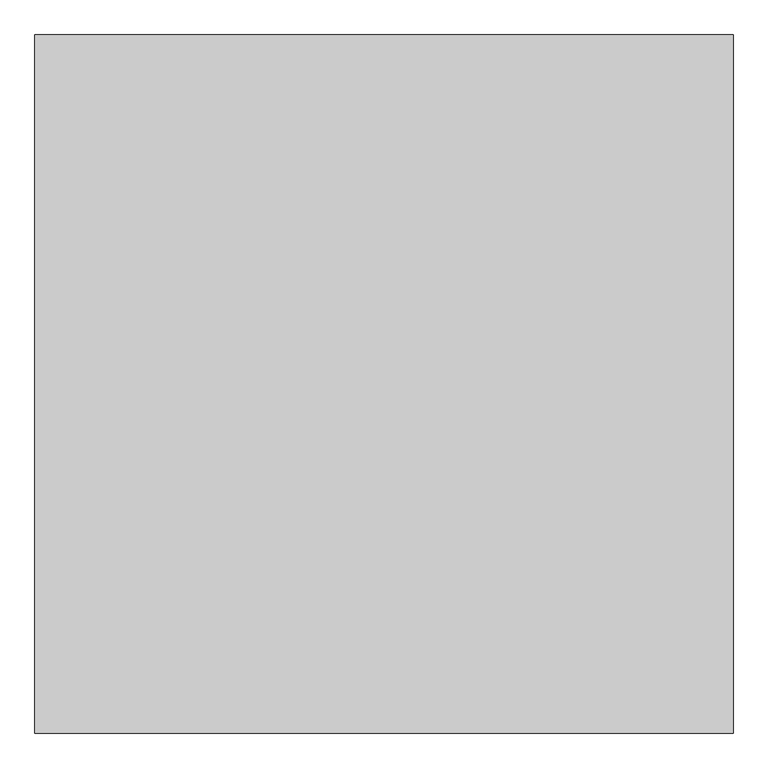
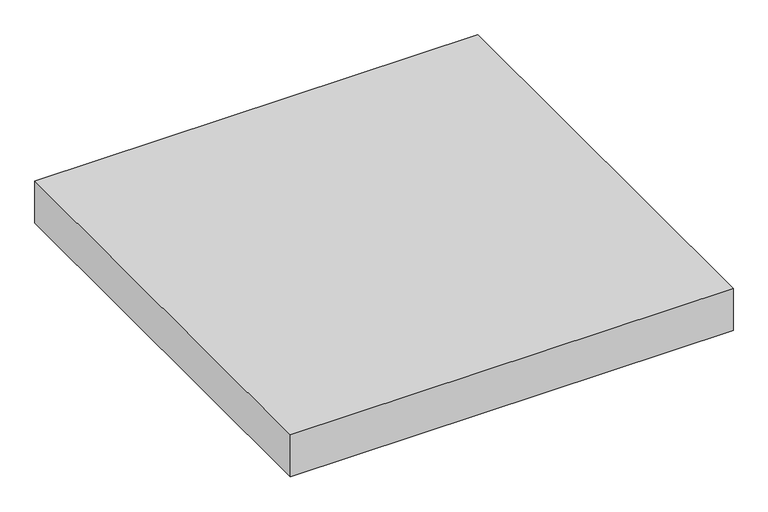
"""IFC4 building model written with IfcOpenShell, lengths in millimetres: proxy geometry, Modelos genéricos 19 : Modelos genéricos 1."""

from ifc_helpers import new_model, si_unit, origin, origin_with_axes, place, context, project, spatial, polyline, outline, extrude, source, transform, mapped, element, save


def generic_models_567bf115(model_context):
    return source(origin(), model_context, "Body", "SweptSolid", [
        extrude(outline(polyline([(-3422.6026359, -6045.712814), (-3422.6026359, -7545.712814), (-4922.6026359, -7545.712814), (-4922.6026359, -6045.712814), (-3422.6026359, -6045.712814)])), origin_with_axes(), (0.0, 0.0, 1.0), 150.0),
    ])


if __name__ == "__main__":
    model = new_model("IFC4")
    model_context = context("Model", 3, world=origin())
    ifc_project = project(units=[si_unit("LENGTHUNIT", "METRE", prefix="MILLI")], contexts=[model_context])
    site = spatial("IfcSite", under=ifc_project)
    building = spatial("IfcBuilding", under=site)
    placement = place(None, origin())
    generic_models_shape = generic_models_567bf115(model_context)
    element("IfcBuildingElementProxy", 1, Name="Modelos genéricos 19 : Modelos genéricos 1", ObjectType="Modelos genéricos 19 : Modelos genéricos 1", at=placement, inside=building, context=model_context, shape_type="MappedRepresentation", body=[
        mapped(generic_models_shape, transform((0.0, 0.0, 0.0), x_axis=(1.0, 0.0, 0.0), y_axis=(0.0, 1.0, 0.0), z_axis=(0.0, 0.0, 1.0))),
    ])
    save(model, "model.ifc")
